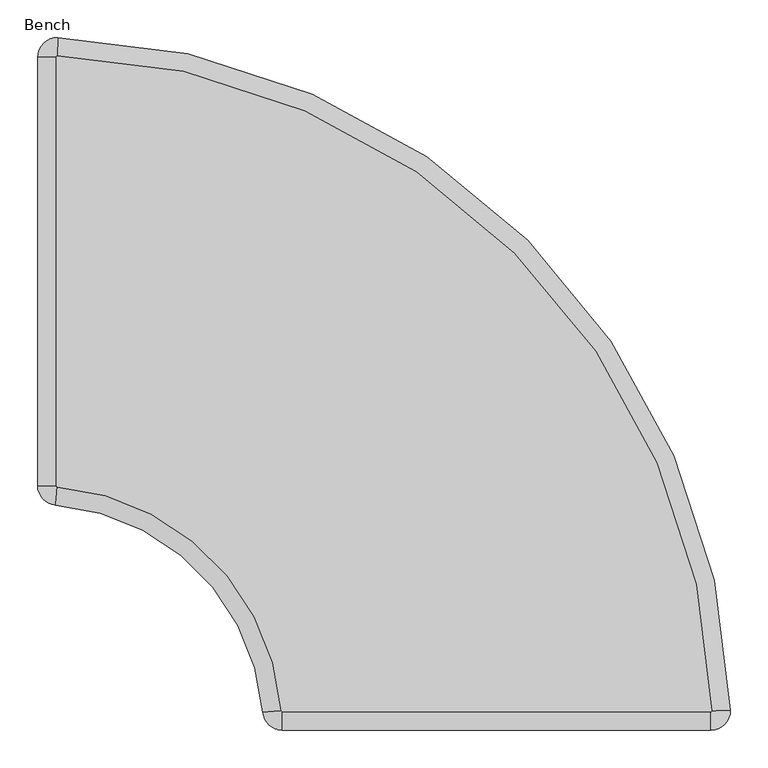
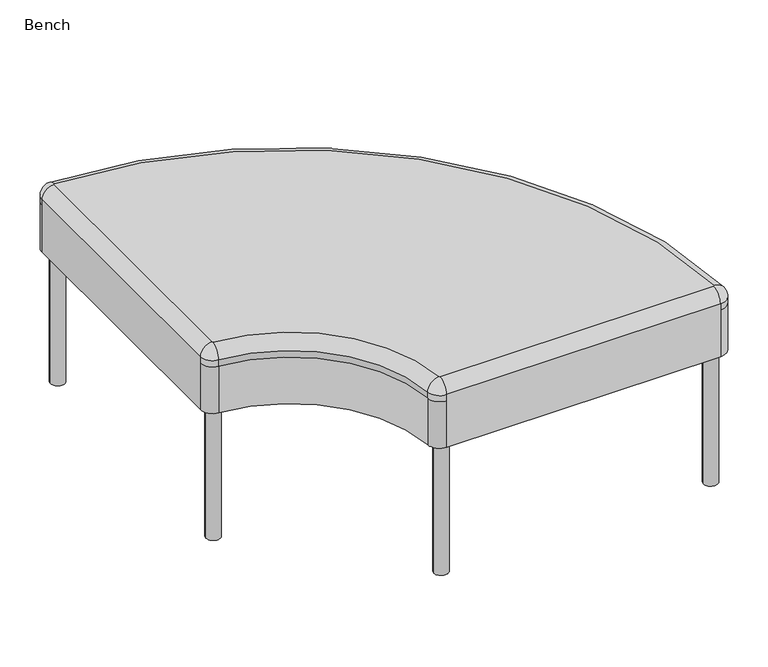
"""IFC4 building model written with IfcOpenShell, lengths in millimetres: furniture geometry, Noora Round 1 : Bench."""

from ifc_helpers import new_model, si_unit, point, frame, frame_2d, origin, origin_with_axes, place, context, project, spatial, polyline, circle_curve, ellipse_curve, trimmed, segment, composite_curve, outline, extrude, source, transform, mapped, element, save
from ifc_brep_helpers import plane_surface, cylinder_surface, revolved_surface, advanced_brep


def bench_5e1756b0(model_context):
    return source(origin(), model_context, "Body", "SolidModel", [
        advanced_brep(
        [(0.0, 324.9615362, 291.0), (0.0, 893.621844, 291.0), (26.7561521, 919.6108461, 291.0), (919.6108461, 26.7561521, 291.0), (893.621844, 0.0, 291.0), (324.9615362, 0.0, 291.0), (299.0443585, 23.9263804, 291.0), (23.9263804, 299.0443585, 291.0), (0.0, 324.9615362, 393.0), (0.0, 324.9615362, 407.0), (0.0, 893.621844, 407.0), (0.0, 893.621844, 393.0), (24.0, 324.9615362, 431.0), (24.0, 893.621844, 431.0), (893.621844, 0.0, 393.0), (893.621844, 0.0, 407.0), (324.9615362, 0.0, 407.0), (324.9615362, 0.0, 393.0), (23.9263804, 299.0443585, 393.0), (299.0443585, 23.9263804, 393.0), (919.6108461, 26.7561521, 393.0), (26.7561521, 919.6108461, 393.0), (26.0581655, 895.620998, 431.0), (26.7561521, 919.6108461, 407.0), (895.620998, 26.0581655, 431.0), (919.6108461, 26.7561521, 407.0), (893.621844, 24.0, 431.0), (324.9615362, 24.0, 431.0), (322.9679071, 25.8404908, 431.0), (299.0443585, 23.9263804, 407.0), (25.8404908, 322.9679071, 431.0), (23.9263804, 299.0443585, 407.0)],
        [
            (0, 1),
            (1, 2, circle_curve(frame((26.0, 893.621844, 291.0), z_axis=(0.0, 0.0, -1.0), x_axis=(1.0, 0.0, 0.0)), 26.0)),
            (2, 3, circle_curve(frame((0.0, 0.0, 291.0), z_axis=(0.0, 0.0, -1.0), x_axis=(1.0, 0.0, 0.0)), 920.0)),
            (3, 4, circle_curve(frame((893.621844, 26.0, 291.0), z_axis=(0.0, 0.0, -1.0), x_axis=(1.0, 0.0, 0.0)), 26.0)),
            (4, 5),
            (5, 6, circle_curve(frame((324.9615362, 26.0, 291.0), z_axis=(0.0, 0.0, -1.0), x_axis=(1.0, 0.0, 0.0)), 26.0)),
            (6, 7, circle_curve(frame((0.0, 0.0, 291.0), z_axis=(0.0, 0.0, 1.0), x_axis=(1.0, 0.0, 0.0)), 300.0)),
            (7, 0, circle_curve(frame((26.0, 324.9615362, 291.0), z_axis=(0.0, 0.0, -1.0), x_axis=(1.0, 0.0, 0.0)), 26.0)),
            (0, 8),
            (8, 9),
            (9, 10),
            (10, 11),
            (11, 1),
            (9, 12, circle_curve(frame((24.0, 324.9615362, 407.0), z_axis=(0.0, 1.0, 0.0), x_axis=(1.0, 0.0, 0.0)), 24.0)),
            (12, 13),
            (13, 10, circle_curve(frame((24.0, 893.621844, 407.0), z_axis=(0.0, -1.0, 0.0), x_axis=(1.0, 0.0, 0.0)), 24.0)),
            (4, 14),
            (14, 15),
            (15, 16),
            (16, 17),
            (17, 5),
            (7, 18),
            (18, 8, circle_curve(frame((26.0, 324.9615362, 393.0), z_axis=(0.0, 0.0, -1.0), x_axis=(1.0, 0.0, 0.0)), 26.0)),
            (6, 19),
            (19, 18, circle_curve(frame((0.0, 0.0, 393.0), z_axis=(0.0, 0.0, 1.0), x_axis=(1.0, 0.0, 0.0)), 300.0)),
            (17, 19, circle_curve(frame((324.9615362, 26.0, 393.0), z_axis=(0.0, 0.0, -1.0), x_axis=(1.0, 0.0, 0.0)), 26.0)),
            (3, 20),
            (20, 14, circle_curve(frame((893.621844, 26.0, 393.0), z_axis=(0.0, 0.0, -1.0), x_axis=(1.0, 0.0, 0.0)), 26.0)),
            (2, 21),
            (21, 20, circle_curve(frame((0.0, 0.0, 393.0), z_axis=(0.0, 0.0, -1.0), x_axis=(1.0, 0.0, 0.0)), 920.0)),
            (11, 21, circle_curve(frame((26.0, 893.621844, 393.0), z_axis=(0.0, 0.0, -1.0), x_axis=(1.0, 0.0, 0.0)), 26.0)),
            (13, 22, circle_curve(frame((26.0, 893.621844, 431.0), z_axis=(0.0, 0.0, -1.0), x_axis=(-1.0, 0.0, 0.0)), 2.0)),
            (22, 23, circle_curve(frame((26.0581655, 895.620998, 407.0), z_axis=(-0.9995770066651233, 0.02908277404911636, 0.0), x_axis=(-0.02908277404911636, -0.9995770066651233, 0.0)), 24.0)),
            (23, 10, circle_curve(frame((26.0, 893.621844, 407.0), z_axis=(0.0, 0.0, 1.0), x_axis=(-1.0, 0.0, 0.0)), 26.0)),
            (23, 21),
            (22, 24, circle_curve(frame((0.0, 0.0, 431.0), z_axis=(0.0, 0.0, -1.0), x_axis=(0.029082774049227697, 0.9995770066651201, 0.0)), 896.0)),
            (24, 25, circle_curve(frame((895.620998, 26.0581655, 407.0), z_axis=(-0.02908277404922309, 0.9995770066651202, 0.0), x_axis=(-0.9995770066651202, -0.02908277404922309, 0.0)), 24.0)),
            (25, 23, circle_curve(frame((0.0, 0.0, 407.0), z_axis=(0.0, 0.0, 1.0), x_axis=(0.029082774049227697, 0.9995770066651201, 0.0)), 920.0)),
            (25, 20),
            (24, 26, circle_curve(frame((893.621844, 26.0, 431.0), z_axis=(0.0, 0.0, -1.0), x_axis=(0.9995770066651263, 0.02908277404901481, 0.0)), 2.0)),
            (26, 15, circle_curve(frame((893.621844, 24.0, 407.0), z_axis=(1.0, 0.0, 0.0), x_axis=(0.0, 1.0, 0.0)), 24.0)),
            (15, 25, circle_curve(frame((893.621844, 26.0, 407.0), z_axis=(0.0, 0.0, 1.0), x_axis=(0.9995770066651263, 0.02908277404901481, 0.0)), 26.0)),
            (26, 27),
            (27, 16, circle_curve(frame((324.9615362, 24.0, 407.0), z_axis=(1.0, 0.0, 0.0), x_axis=(0.0, 1.0, 0.0)), 24.0)),
            (27, 28, circle_curve(frame((324.9615362, 26.0, 431.0), z_axis=(0.0, 0.0, -1.0), x_axis=(0.0, -1.0, 0.0)), 2.0)),
            (28, 29, circle_curve(frame((322.9679071, 25.8404908, 407.0), z_axis=(0.07975460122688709, -0.9968145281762, 0.0), x_axis=(0.9968145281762, 0.07975460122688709, 0.0)), 24.0)),
            (29, 16, circle_curve(frame((324.9615362, 26.0, 407.0), z_axis=(0.0, 0.0, 1.0), x_axis=(0.0, -1.0, 0.0)), 26.0)),
            (29, 19),
            (28, 30, circle_curve(frame((0.0, 0.0, 431.0), z_axis=(0.0, 0.0, 1.0), x_axis=(0.996814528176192, 0.0797546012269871, 0.0)), 324.0)),
            (30, 31, circle_curve(frame((25.8404908, 322.9679071, 407.0), z_axis=(0.9968145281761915, -0.0797546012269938, 0.0), x_axis=(0.0797546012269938, 0.9968145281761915, 0.0)), 24.0)),
            (31, 29, circle_curve(frame((0.0, 0.0, 407.0), z_axis=(0.0, 0.0, -1.0), x_axis=(0.996814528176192, 0.0797546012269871, 0.0)), 300.0)),
            (31, 18),
            (9, 31, circle_curve(frame((26.0, 324.9615362, 407.0), z_axis=(0.0, 0.0, 1.0), x_axis=(-0.07975460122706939, -0.9968145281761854, 0.0)), 26.0)),
            (30, 12, circle_curve(frame((26.0, 324.9615362, 431.0), z_axis=(0.0, 0.0, -1.0), x_axis=(-0.07975460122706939, -0.9968145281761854, 0.0)), 2.0)),
        ],
        [
            plane_surface(frame((52.0, 324.9615362, 291.0), z_axis=(0.0, 0.0, -1.0), x_axis=(0.0, -1.0, 0.0))),
            plane_surface(frame((0.0, 893.621844, 393.0), z_axis=(-1.0, 0.0, 0.0), x_axis=(0.0, 0.0, -1.0))),
            cylinder_surface(frame((24.0, 324.9615362, 407.0), z_axis=(0.0, -1.0, 0.0), x_axis=(1.0, 0.0, 0.0)), 24.0),
            plane_surface(frame((324.9615362, 0.0, 393.0), z_axis=(0.0, -1.0, 0.0), x_axis=(0.0, 0.0, -1.0))),
            cylinder_surface(frame((26.0, 324.9615362, 291.0), z_axis=(0.0, 0.0, 1.0), x_axis=(1.0, 0.0, 0.0)), 26.0),
            revolved_surface(polyline([(300.0, 0.0, 291.0), (300.0, 0.0, 393.0)]), (0.0, 0.0, 291.0), (0.0, 0.0, -1.0)),
            cylinder_surface(frame((324.9615362, 26.0, 291.0), z_axis=(0.0, 0.0, 1.0), x_axis=(1.0, 0.0, 0.0)), 26.0),
            cylinder_surface(frame((893.621844, 26.0, 291.0), z_axis=(0.0, 0.0, 1.0), x_axis=(1.0, 0.0, 0.0)), 26.0),
            cylinder_surface(frame((0.0, 0.0, 291.0), z_axis=(0.0, 0.0, 1.0), x_axis=(1.0, 0.0, 0.0)), 920.0),
            cylinder_surface(frame((26.0, 893.621844, 291.0), z_axis=(0.0, 0.0, 1.0), x_axis=(1.0, 0.0, 0.0)), 26.0),
            revolved_surface(trimmed(ellipse_curve(frame((24.0, 893.621844, 407.0), z_axis=(0.0, -1.0, 0.0), x_axis=(1.0, 0.0, 0.0)), 24.0, 24.0), [point((24.0, 893.621844, 431.0))], [point((0.0, 893.621844, 407.0))], True, "CARTESIAN"), (26.0, 893.621844, 393.0), (0.0, 0.0, -1.0)),
            cylinder_surface(frame((26.0, 893.621844, 393.0), z_axis=(0.0, 0.0, -1.0), x_axis=(-1.0, 0.0, 0.0)), 26.0),
            revolved_surface(trimmed(ellipse_curve(frame((26.0581655, 895.620998, 407.0), z_axis=(-0.9995770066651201, 0.0290827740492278, 0.0), x_axis=(-0.0290827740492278, -0.9995770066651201, 0.0)), 24.0, 24.0), [point((26.0581655, 895.620998, 431.0))], [point((26.7561521, 919.6108461, 407.0))], True, "CARTESIAN"), (0.0, 0.0, 393.0), (0.0, 0.0, -1.0)),
            cylinder_surface(frame((0.0, 0.0, 393.0), z_axis=(0.0, 0.0, -1.0), x_axis=(0.029082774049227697, 0.9995770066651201, 0.0)), 920.0),
            revolved_surface(trimmed(ellipse_curve(frame((895.620998, 26.0581655, 407.0), z_axis=(-0.029082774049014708, 0.9995770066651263, 0.0), x_axis=(-0.9995770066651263, -0.029082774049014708, 0.0)), 24.0, 24.0), [point((895.620998, 26.0581655, 431.0))], [point((919.6108461, 26.7561521, 407.0))], True, "CARTESIAN"), (893.621844, 26.0, 393.0), (0.0, 0.0, -1.0)),
            cylinder_surface(frame((893.621844, 26.0, 393.0), z_axis=(0.0, 0.0, -1.0), x_axis=(0.9995770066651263, 0.02908277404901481, 0.0)), 26.0),
            cylinder_surface(frame((893.621844, 24.0, 407.0), z_axis=(1.0, 0.0, 0.0), x_axis=(0.0, 1.0, 0.0)), 24.0),
            revolved_surface(trimmed(ellipse_curve(frame((324.9615362, 24.0, 407.0), z_axis=(1.0, 0.0, 0.0), x_axis=(0.0, 1.0, 0.0)), 24.0, 24.0), [point((324.9615362, 24.0, 431.0))], [point((324.9615362, 0.0, 407.0))], True, "CARTESIAN"), (324.9615362, 26.0, 393.0), (0.0, 0.0, -1.0)),
            cylinder_surface(frame((324.9615362, 26.0, 393.0), z_axis=(0.0, 0.0, -1.0), x_axis=(0.0, -1.0, 0.0)), 26.0),
            revolved_surface(trimmed(ellipse_curve(frame((322.9679071, 25.8404908, 407.0), z_axis=(0.07975460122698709, -0.996814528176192, 0.0), x_axis=(0.996814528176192, 0.07975460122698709, 0.0)), 24.0, 24.0), [point((322.9679071, 25.8404908, 431.0))], [point((299.0443585, 23.9263804, 407.0))], True, "CARTESIAN"), (0.0, 0.0, 393.0), (0.0, 0.0, 1.0)),
            revolved_surface(polyline([(299.0443584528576, 23.92638036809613, 407.0), (299.0443584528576, 23.92638036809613, 393.0)]), (0.0, 0.0, 393.0), (0.0, 0.0, 1.0)),
            revolved_surface(trimmed(ellipse_curve(frame((25.8404908, 322.9679071, 407.0), z_axis=(0.9968145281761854, -0.07975460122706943, 0.0), x_axis=(0.07975460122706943, 0.9968145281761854, 0.0)), 24.0, 24.0), [point((25.8404908, 322.9679071, 431.0))], [point((23.9263804, 299.0443585, 407.0))], True, "CARTESIAN"), (26.0, 324.9615362, 393.0), (0.0, 0.0, -1.0)),
            cylinder_surface(frame((26.0, 324.9615362, 393.0), z_axis=(0.0, 0.0, -1.0), x_axis=(-0.07975460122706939, -0.9968145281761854, 0.0)), 26.0),
            plane_surface(frame((26.0581655, 895.620998, 431.0), z_axis=(0.0, 0.0, 1.0000000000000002), x_axis=(-0.9995770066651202, 0.0290827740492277, 0.0))),
        ],
        [
            (0, [[1, 2, 3, 4, 5, 6, 7, 8]]),
            (1, [[-1, 9, 10, 11, 12, 13]]),
            (2, [[-11, 14, 15, 16]]),
            (3, [[-5, 17, 18, 19, 20, 21]]),
            (4, [[-8, 22, 23, -9]]),
            (5, [[-7, 24, 25, -22]]),
            (6, [[-6, -21, 26, -24]]),
            (7, [[-4, 27, 28, -17]]),
            (8, [[-3, 29, 30, -27]]),
            (9, [[-2, -13, 31, -29]]),
            (10, [[-16, 32, 33, 34]]),
            (11, [[-12, -34, 35, -31]]),
            (12, [[-33, 36, 37, 38]]),
            (13, [[-35, -38, 39, -30]]),
            (14, [[-37, 40, 41, 42]]),
            (15, [[-39, -42, -18, -28]]),
            (16, [[-41, 43, 44, -19]]),
            (17, [[-44, 45, 46, 47]]),
            (18, [[-20, -47, 48, -26]]),
            (19, [[-46, 49, 50, 51]]),
            (20, [[-48, -51, 52, -25]]),
            (21, [[-14, 53, -50, 54]]),
            (22, [[-10, -23, -52, -53]]),
            (23, [[-15, -54, -49, -45, -43, -40, -36, -32]]),
        ],
    ),
        extrude(outline(composite_curve([segment(trimmed(circle_curve(frame_2d((890.0, 30.0)), 15.0), [point((875.0, 30.0))], [point((905.0, 30.0))], False, "CARTESIAN"), True, "CONTINUOUS"), segment(trimmed(circle_curve(frame_2d((890.0, 30.0)), 15.0), [point((905.0, 30.0))], [point((875.0, 30.0))], False, "CARTESIAN"), True, "CONTINUOUS")], self_intersect=False)), origin_with_axes(), (0.0, 0.0, 1.0), 290.0),
        extrude(outline(composite_curve([segment(trimmed(circle_curve(frame_2d((330.0, 30.0)), 15.0), [point((315.0, 30.0))], [point((345.0, 30.0))], False, "CARTESIAN"), True, "CONTINUOUS"), segment(trimmed(circle_curve(frame_2d((330.0, 30.0)), 15.0), [point((345.0, 30.0))], [point((315.0, 30.0))], False, "CARTESIAN"), True, "CONTINUOUS")], self_intersect=False)), origin_with_axes(), (0.0, 0.0, 1.0), 290.0),
        extrude(outline(composite_curve([segment(trimmed(circle_curve(frame_2d((30.0, 890.0)), 15.0), [point((15.0, 890.0))], [point((45.0, 890.0))], False, "CARTESIAN"), True, "CONTINUOUS"), segment(trimmed(circle_curve(frame_2d((30.0, 890.0)), 15.0), [point((45.0, 890.0))], [point((15.0, 890.0))], False, "CARTESIAN"), True, "CONTINUOUS")], self_intersect=False)), origin_with_axes(), (0.0, 0.0, 1.0), 290.0),
        extrude(outline(composite_curve([segment(trimmed(circle_curve(frame_2d((30.0, 330.0)), 15.0), [point((15.0, 330.0))], [point((45.0, 330.0))], False, "CARTESIAN"), True, "CONTINUOUS"), segment(trimmed(circle_curve(frame_2d((30.0, 330.0)), 15.0), [point((45.0, 330.0))], [point((15.0, 330.0))], False, "CARTESIAN"), True, "CONTINUOUS")], self_intersect=False)), origin_with_axes(), (0.0, 0.0, 1.0), 290.0),
        extrude(outline(composite_curve([segment(trimmed(circle_curve(frame_2d((621.9989849, 621.9989849)), 15.0), [point((606.9989849, 621.9989849))], [point((636.9989849, 621.9989849))], False, "CARTESIAN"), True, "CONTINUOUS"), segment(trimmed(circle_curve(frame_2d((621.9989849, 621.9989849)), 15.0), [point((636.9989849, 621.9989849))], [point((606.9989849, 621.9989849))], False, "CARTESIAN"), True, "CONTINUOUS")], self_intersect=False)), origin_with_axes(), (0.0, 0.0, 1.0), 290.0),
    ])


if __name__ == "__main__":
    model = new_model("IFC4")
    model_context = context("Model", 3, world=origin())
    ifc_project = project(units=[si_unit("LENGTHUNIT", "METRE", prefix="MILLI")], contexts=[model_context])
    site = spatial("IfcSite", under=ifc_project)
    building = spatial("IfcBuilding", under=site)
    placement = place(None, origin())
    bench_shape = bench_5e1756b0(model_context)
    element("IfcFurniture", 1, ObjectType="Noora Round 1 : Bench", at=placement, inside=building, context=model_context, shape_type="MappedRepresentation", body=[
        mapped(bench_shape, transform((0.0, 0.0, 0.0), x_axis=(1.0, 0.0, 0.0), y_axis=(0.0, 1.0, 0.0), z_axis=(0.0, 0.0, 1.0))),
    ])
    save(model, "model.ifc")
